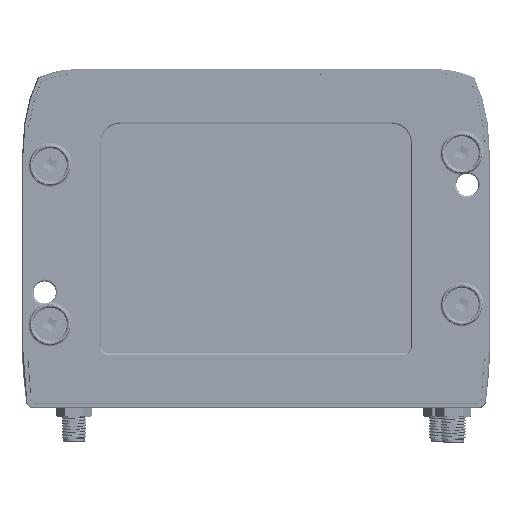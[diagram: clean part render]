
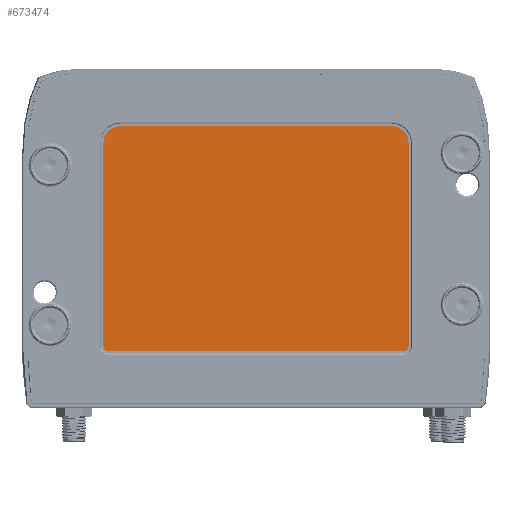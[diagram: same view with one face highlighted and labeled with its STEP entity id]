
A CAD part, front view. The second image highlights one B-rep face of the part: STEP entity #673474.
In plain terms, the highlighted planar face has unit normal (0, -1, 0).
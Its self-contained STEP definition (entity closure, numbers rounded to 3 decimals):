
#673231=CARTESIAN_POINT('',(37.,-32.75,15.5));
#673232=DIRECTION('',(0.,1.,0.));
#673233=DIRECTION('',(1.,0.,0.));
#673234=AXIS2_PLACEMENT_3D('',#673231,#673232,#673233);
#673239=DIRECTION('',(-1.,0.,0.));
#673240=VECTOR('',#673239,74.);
#673241=CARTESIAN_POINT('',(37.,-32.75,14.25));
#673242=LINE('',#673241,#673240);
#673246=CARTESIAN_POINT('',(-37.,-32.75,15.5));
#673247=DIRECTION('',(0.,1.,0.));
#673248=DIRECTION('',(0.,0.,-1.));
#673249=AXIS2_PLACEMENT_3D('',#673246,#673247,#673248);
#673254=DIRECTION('',(0.,0.,1.));
#673255=VECTOR('',#673254,51.);
#673256=CARTESIAN_POINT('',(-38.25,-32.75,15.5));
#673257=LINE('',#673256,#673255);
#673261=CARTESIAN_POINT('',(-34.,-32.75,66.5));
#673262=DIRECTION('',(0.,1.,0.));
#673263=DIRECTION('',(-1.,0.,0.));
#673264=AXIS2_PLACEMENT_3D('',#673261,#673262,#673263);
#673269=DIRECTION('',(1.,0.,0.));
#673270=VECTOR('',#673269,68.);
#673271=CARTESIAN_POINT('',(-34.,-32.75,70.75));
#673272=LINE('',#673271,#673270);
#673276=CARTESIAN_POINT('',(34.,-32.75,66.5));
#673277=DIRECTION('',(0.,1.,0.));
#673278=DIRECTION('',(0.,0.,1.));
#673279=AXIS2_PLACEMENT_3D('',#673276,#673277,#673278);
#673284=DIRECTION('',(0.,0.,-1.));
#673285=VECTOR('',#673284,51.);
#673286=CARTESIAN_POINT('',(38.25,-32.75,66.5));
#673287=LINE('',#673286,#673285);
#673307=CARTESIAN_POINT('',(38.25,-32.75,15.5));
#673308=CARTESIAN_POINT('',(37.,-32.75,14.25));
#673309=VERTEX_POINT('',#673307);
#673310=VERTEX_POINT('',#673308);
#673311=CARTESIAN_POINT('',(-37.,-32.75,14.25));
#673312=VERTEX_POINT('',#673311);
#673313=CARTESIAN_POINT('',(-38.25,-32.75,15.5));
#673314=VERTEX_POINT('',#673313);
#673315=CARTESIAN_POINT('',(-38.25,-32.75,66.5));
#673316=VERTEX_POINT('',#673315);
#673317=CARTESIAN_POINT('',(-34.,-32.75,70.75));
#673318=VERTEX_POINT('',#673317);
#673319=CARTESIAN_POINT('',(34.,-32.75,70.75));
#673320=VERTEX_POINT('',#673319);
#673321=CARTESIAN_POINT('',(38.25,-32.75,66.5));
#673322=VERTEX_POINT('',#673321);
#673459=CARTESIAN_POINT('',(0.,-32.75,0.));
#673460=DIRECTION('',(0.,1.,0.));
#673461=DIRECTION('',(0.,0.,-1.));
#673462=AXIS2_PLACEMENT_3D('',#673459,#673460,#673461);
#673463=PLANE('',#673462);
#673464=ORIENTED_EDGE('',*,*,#673355,.T.);
#673465=ORIENTED_EDGE('',*,*,#673370,.T.);
#673466=ORIENTED_EDGE('',*,*,#673384,.T.);
#673467=ORIENTED_EDGE('',*,*,#673398,.T.);
#673468=ORIENTED_EDGE('',*,*,#673412,.T.);
#673469=ORIENTED_EDGE('',*,*,#673426,.T.);
#673470=ORIENTED_EDGE('',*,*,#673440,.T.);
#673471=ORIENTED_EDGE('',*,*,#673453,.T.);
#673472=EDGE_LOOP('',(#673464,#673465,#673466,#673467,#673468,#673469,#673470,
#673471));
#673473=FACE_OUTER_BOUND('',#673472,.F.);
#673235=CIRCLE('',#673234,1.25);
#673250=CIRCLE('',#673249,1.25);
#673265=CIRCLE('',#673264,4.25);
#673280=CIRCLE('',#673279,4.25);
#673355=EDGE_CURVE('',#673309,#673310,#673235,.T.);
#673370=EDGE_CURVE('',#673310,#673312,#673242,.T.);
#673384=EDGE_CURVE('',#673312,#673314,#673250,.T.);
#673398=EDGE_CURVE('',#673314,#673316,#673257,.T.);
#673412=EDGE_CURVE('',#673316,#673318,#673265,.T.);
#673426=EDGE_CURVE('',#673318,#673320,#673272,.T.);
#673440=EDGE_CURVE('',#673320,#673322,#673280,.T.);
#673453=EDGE_CURVE('',#673322,#673309,#673287,.T.);
#673474=ADVANCED_FACE('',(#673473),#673463,.F.);
